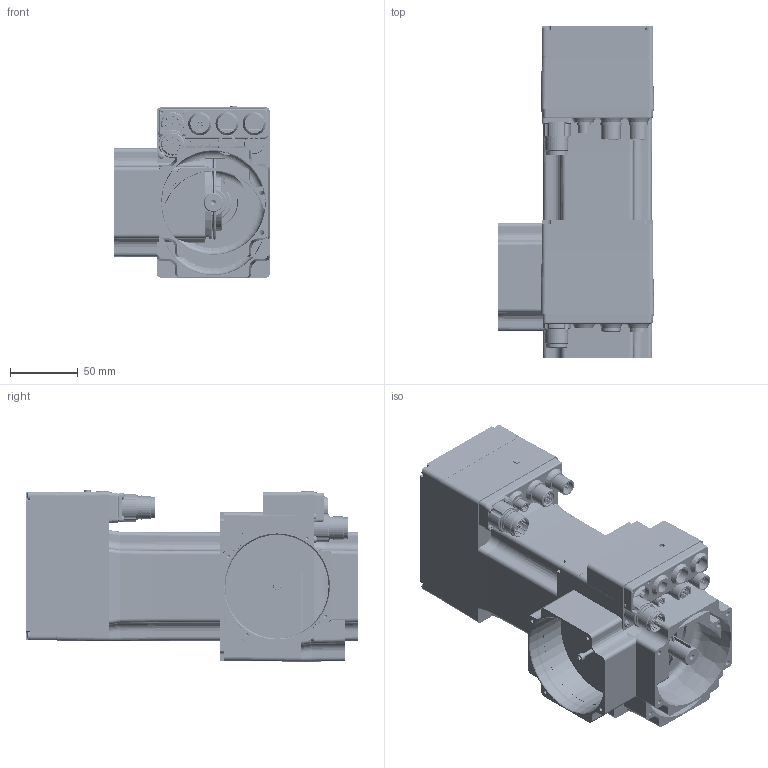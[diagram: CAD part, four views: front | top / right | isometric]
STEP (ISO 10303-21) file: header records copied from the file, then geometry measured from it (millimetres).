
FILE_DESCRIPTION( ( 'Unknown' ), '1' );
FILE_NAME( 'C:/Users/dotti/Desktop/Q0B216/Q0B216 1,5.stp', 'Unknown', ( 'Unknown' ), ( 'Unknown' ), 'PSStep 14.0', 'Unknown', ' ' );
FILE_SCHEMA( ( 'AUTOMOTIVE_DESIGN { 1 0 10303 214 1 1 1 1 }' ) );
Length unit declared in the file: millimetre
Products named in the file (48): Assem1; T00273; 005117000974; N54236; CN M23 PAN-POT BEGA 906 4+5p; VECST-8112 M  2,5 x 12; 005117000476; G00030; LI-PIA   5x5 x 25; CUSC_20_42_12_6004_ZZ; CUSC_15_32_9_6002_ZZ; Anello-elastico-chiuso  42; a-ela  20; 003120002083; Anello-elastico-chiuso  32; 003251021084; Vite a brugola testa cil 8,8 -  M  3 x 25; Vite a brugola testa cil 8,8 -  M  3 x 25-oa0; Vite a brugola testa cil 8,8 -  M  3 x 25-oa1; Vite a brugola testa cil 8,8 -  M  3 x 25-oa2; Vite a brugola testa cil 8,8 -  M  3 x 40; Vite a brugola testa cil 8,8 -  M  3 x 40-oa3; Vite a brugola testa cil 8,8 -  M  3 x 40-oa4; Vite a brugola testa cil 8,8 -  M  3 x 40-oa5; N35217; VECST-8112 M  3 x 25; Anello OR 1,78 D72,75-2287-oa6; Anello OR 1,78 D72,75-2287-oa7; Anello OR 2 D32-oa8; 003016000054; N01393; N54239
Bounding box: 114.5 x 244.13 x 126.21 mm (x, y, z)
Volume: 1064343.3 mm3; surface area: 552133.9 mm2
Topology: 108 solids, 112 shells, 7459 faces, 20219 edges, 13253 vertices
Faces by surface type: plane 4057, cylinder 2547, cone 288, bspline 283, torus 231, sphere 53
Full cylindrical faces by diameter (mm): 1 x39, 1.5 x42, 1.7 x30, 2 x4, 2.4 x24, 2.459 x40, 2.5 x17, 2.7 x12, 3 x21, 3.242 x4, 3.5 x34, 4 x5, 4.134 x2, 4.2 x2, 5 x11, 5.5 x18, 6 x26, 8 x17, 8.5 x9, 8.75 x3, 9 x6, 10 x3, 11 x15, 11.9 x6, 12 x11, 14 x8, 14.4 x3, 14.5 x3, 14.9 x2, 15 x4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
Entity records: 105144 total; most frequent: CARTESIAN_POINT 27385, ORIENTED_EDGE 13460, DIRECTION 13401, EDGE_CURVE 6730, AXIS2_PLACEMENT_3D 4835, VERTEX_POINT 4610, LINE 3731, VECTOR 3731
